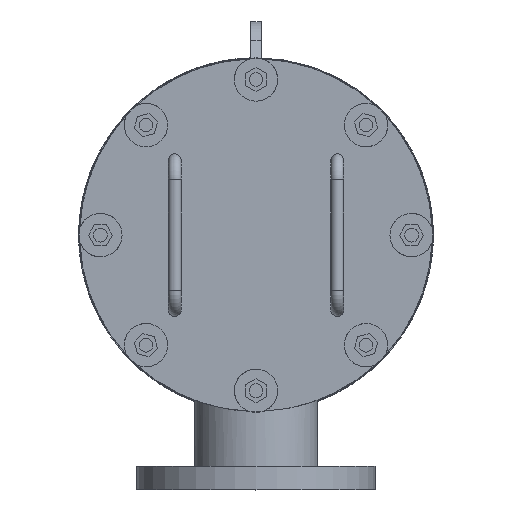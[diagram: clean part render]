
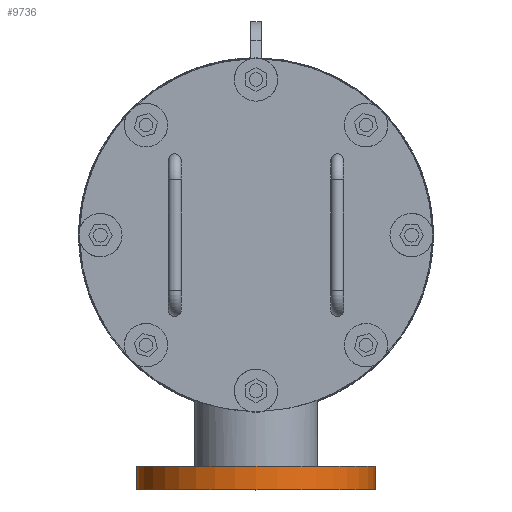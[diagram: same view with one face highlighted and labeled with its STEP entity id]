
A CAD part, left-side view. The second image highlights one B-rep face of the part: STEP entity #9736.
In plain terms, the highlighted cylindrical face has radius 110 mm (diameter 220 mm), a full revolution.
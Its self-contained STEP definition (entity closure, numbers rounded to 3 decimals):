
#9736 = ADVANCED_FACE( '', ( #16269, #16270 ), #16271, .T. );
#16269 = FACE_OUTER_BOUND( '', #18877, .T. );
#16270 = FACE_OUTER_BOUND( '', #18878, .T. );
#16271 = CYLINDRICAL_SURFACE( '', #18879, 110. );
#18877 = EDGE_LOOP( '', ( #22734 ) );
#18878 = EDGE_LOOP( '', ( #22735 ) );
#18879 = AXIS2_PLACEMENT_3D( '', #22736, #22737, #22738 );
#22734 = ORIENTED_EDGE( '', *, *, #30650, .F. );
#22735 = ORIENTED_EDGE( '', *, *, #30652, .T. );
#22736 = CARTESIAN_POINT( '', ( -60., 0., 0. ) );
#22737 = DIRECTION( '', ( 1., 0., 0. ) );
#22738 = DIRECTION( '', ( 0., 0., 1. ) );
#30650 = EDGE_CURVE( '', #33258, #33258, #33259, .T. );
#30652 = EDGE_CURVE( '', #33262, #33262, #33263, .T. );
#33258 = VERTEX_POINT( '', #33298 );
#33259 = CIRCLE( '', #33299, 110. );
#33262 = VERTEX_POINT( '', #33302 );
#33263 = CIRCLE( '', #33303, 110. );
#33298 = CARTESIAN_POINT( '', ( -22., 0., 110. ) );
#33299 = AXIS2_PLACEMENT_3D( '', #33349, #33350, #33351 );
#33302 = CARTESIAN_POINT( '', ( 0., 0., 110. ) );
#33303 = AXIS2_PLACEMENT_3D( '', #33355, #33356, #33357 );
#33349 = CARTESIAN_POINT( '', ( -22., 0., 0. ) );
#33350 = DIRECTION( '', ( -1., 0., 0. ) );
#33351 = DIRECTION( '', ( 0., 0., 1. ) );
#33355 = CARTESIAN_POINT( '', ( 0., 0., 0. ) );
#33356 = DIRECTION( '', ( -1., 0., 0. ) );
#33357 = DIRECTION( '', ( 0., 0., 1. ) );
